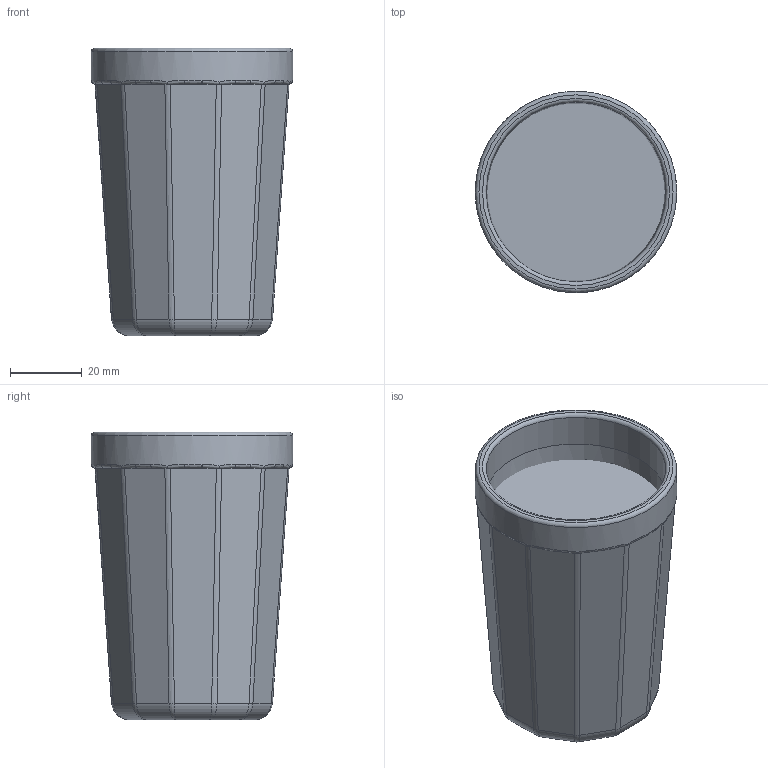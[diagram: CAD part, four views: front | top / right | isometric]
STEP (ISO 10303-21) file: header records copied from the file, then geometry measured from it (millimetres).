
FILE_DESCRIPTION(('STEP AP214'), '1');
FILE_NAME('ﾃ煆瑕', '2015-03-03T17:34:42', ('DEN-SHP'), ('Made in Ukraine'), 'ASCON STEP Converter 1.3', 'ASCON Math Kernel', '');
FILE_SCHEMA(('AUTOMOTIVE_DESIGN { 1 0 10303 214 3 1 1}'));
Length unit declared in the file: millimetre
Products named in the file (1): 3
Bounding box: 56 x 56 x 80 mm (x, y, z)
Volume: 132510.4 mm3; surface area: 38152.9 mm2
Topology: 2 solids, 2 shells, 121 faces, 271 edges, 143 vertices
Faces by surface type: plane 41, bspline 36, cylinder 26, torus 16, cone 2
Full cylindrical faces by diameter (mm): 50 x1, 56 x1
Entity records: 8301 total; most frequent: CARTESIAN_POINT 6087, ORIENTED_EDGE 502, DIRECTION 326, EDGE_CURVE 251, VERTEX_POINT 143, EDGE_LOOP 130, AXIS2_PLACEMENT_3D 121, ADVANCED_FACE 121
